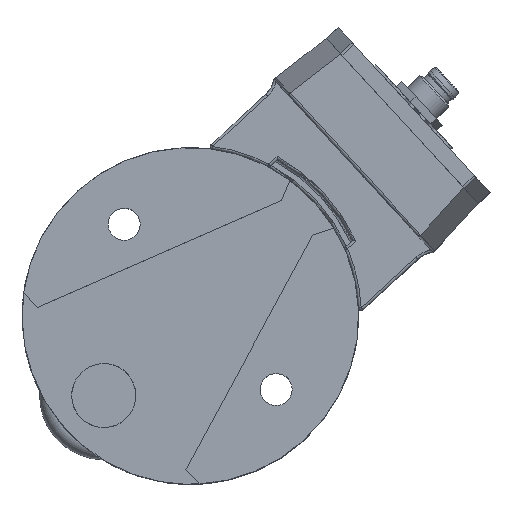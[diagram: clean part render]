
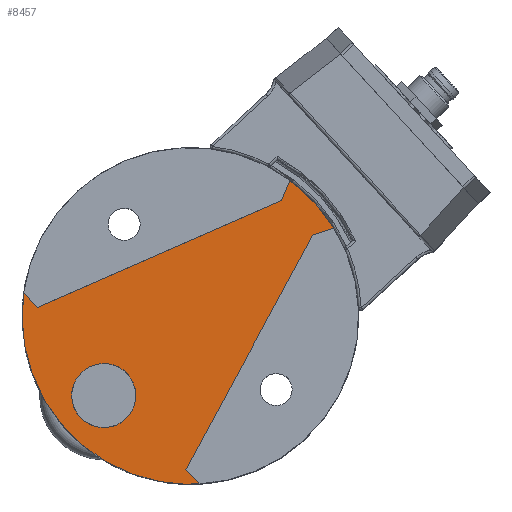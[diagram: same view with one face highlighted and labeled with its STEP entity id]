
A CAD part, top view. The second image highlights one B-rep face of the part: STEP entity #8457.
In plain terms, the highlighted planar face has unit normal (0, 0, 1).
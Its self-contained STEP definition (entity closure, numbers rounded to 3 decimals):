
#182=PLANE('',#9008);
#2210=FACE_BOUND('',#2937,.T.);
#2211=FACE_BOUND('',#2938,.T.);
#2212=FACE_BOUND('',#2939,.T.);
#2398=FACE_OUTER_BOUND('',#2936,.T.);
#2936=EDGE_LOOP('',(#6030));
#2937=EDGE_LOOP('',(#6031));
#2938=EDGE_LOOP('',(#6032));
#2939=EDGE_LOOP('',(#6033));
#3632=CIRCLE('',#8990,3.);
#3633=CIRCLE('',#8992,3.);
#3643=CIRCLE('',#9007,31.5);
#3644=CIRCLE('',#9009,6.);
#3938=VERTEX_POINT('',#12228);
#3939=VERTEX_POINT('',#12231);
#3961=VERTEX_POINT('',#12382);
#3962=VERTEX_POINT('',#12385);
#4786=EDGE_CURVE('',#3938,#3938,#3632,.T.);
#4787=EDGE_CURVE('',#3939,#3939,#3633,.T.);
#4809=EDGE_CURVE('',#3961,#3961,#3643,.T.);
#4810=EDGE_CURVE('',#3962,#3962,#3644,.T.);
#6030=ORIENTED_EDGE('',*,*,#4809,.F.);
#6031=ORIENTED_EDGE('',*,*,#4786,.T.);
#6032=ORIENTED_EDGE('',*,*,#4787,.T.);
#6033=ORIENTED_EDGE('',*,*,#4810,.T.);
#8457=ADVANCED_FACE('',(#2398,#2210,#2211,#2212),#182,.T.);
#8990=AXIS2_PLACEMENT_3D('',#12229,#9839,#9840);
#8992=AXIS2_PLACEMENT_3D('',#12232,#9843,#9844);
#9007=AXIS2_PLACEMENT_3D('',#12383,#9879,#9880);
#9008=AXIS2_PLACEMENT_3D('',#12384,#9881,#9882);
#9009=AXIS2_PLACEMENT_3D('',#12386,#9883,#9884);
#9839=DIRECTION('center_axis',(0.,0.,-1.));
#9840=DIRECTION('ref_axis',(-1.,0.,0.));
#9843=DIRECTION('center_axis',(0.,0.,-1.));
#9844=DIRECTION('ref_axis',(-1.,0.,0.));
#9879=DIRECTION('center_axis',(0.,0.,-1.));
#9880=DIRECTION('ref_axis',(-1.,0.,0.));
#9881=DIRECTION('center_axis',(0.,0.,1.));
#9882=DIRECTION('ref_axis',(1.,0.,0.));
#9883=DIRECTION('center_axis',(0.,0.,-1.));
#9884=DIRECTION('ref_axis',(-1.,0.,0.));
#12228=CARTESIAN_POINT('',(18.,2.5,0.));
#12229=CARTESIAN_POINT('Origin',(21.,2.5,0.));
#12231=CARTESIAN_POINT('',(-24.,2.5,0.));
#12232=CARTESIAN_POINT('Origin',(-21.,2.5,0.));
#12382=CARTESIAN_POINT('',(18.898,-25.201,0.));
#12383=CARTESIAN_POINT('Origin',(0.,0.,0.));
#12384=CARTESIAN_POINT('Origin',(0.,0.,0.));
#12385=CARTESIAN_POINT('',(-5.657,-20.,0.));
#12386=CARTESIAN_POINT('Origin',(0.,-22.,0.));
